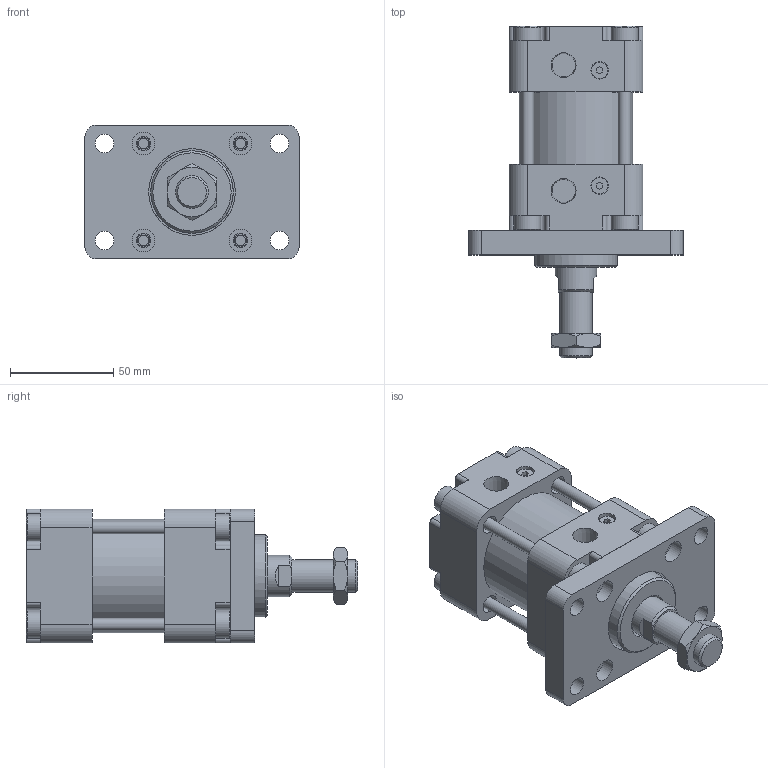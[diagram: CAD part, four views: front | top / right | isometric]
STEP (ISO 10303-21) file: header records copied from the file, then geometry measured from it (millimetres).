
FILE_DESCRIPTION(/* description */ ('Unknown'),/* implementation_level */ '2;1');
FILE_NAME(/* name */ 'WA50-0-FA',/* time_stamp */ '2026-07-17T16:52:13+08:00',/* author */ ('Unknown'),/* organization */ ('Unknown'),/* preprocessor_version */ 'ST-DEVELOPER v16.7',/* originating_system */ 'DEX',/* authorisation */ $);
FILE_SCHEMA (('CONFIG_CONTROL_DESIGN'));
Length unit declared in the file: millimetre
Products named in the file (8): WA50-0-FA; WA50_前; WA50_鋁; WA50_後; WA50_心軸活; M16-1.5P-8_螺; WA50_T碪墮姊濈祫; WA50_FA
Assembly tree (10 placements, depth 2):
  WA50-0-FA
    WA50_前
    WA50_鋁
    WA50_後
    WA50_心軸活
    M16-1.5P-8_螺
    WA50_T碪墮姊濈祫  x4
    WA50_FA
Bounding box: 104 x 161 x 65 mm (x, y, z)
Volume: 414277.9 mm3; surface area: 108395.6 mm2
Topology: 10 solids, 10 shells, 387 faces, 940 edges, 634 vertices
Faces by surface type: plane 215, cylinder 135, cone 37
Full cylindrical faces by diameter (mm): 5 x8, 6 x4, 7 x4, 8 x2, 8.5 x2, 8.8 x8, 9 x12, 11 x4, 13 x8, 14.5 x1, 16 x1, 20 x2, 40 x1, 42 x1, 49.5 x1, 50 x3, 55 x1
Entity records: 10073 total; most frequent: CARTESIAN_POINT 1483, DIRECTION 1462, ORIENTED_EDGE 1274, EDGE_CURVE 637, AXIS2_PLACEMENT_3D 560, VERTEX_POINT 453, EDGE_LOOP 406, FACE_BOUND 406
